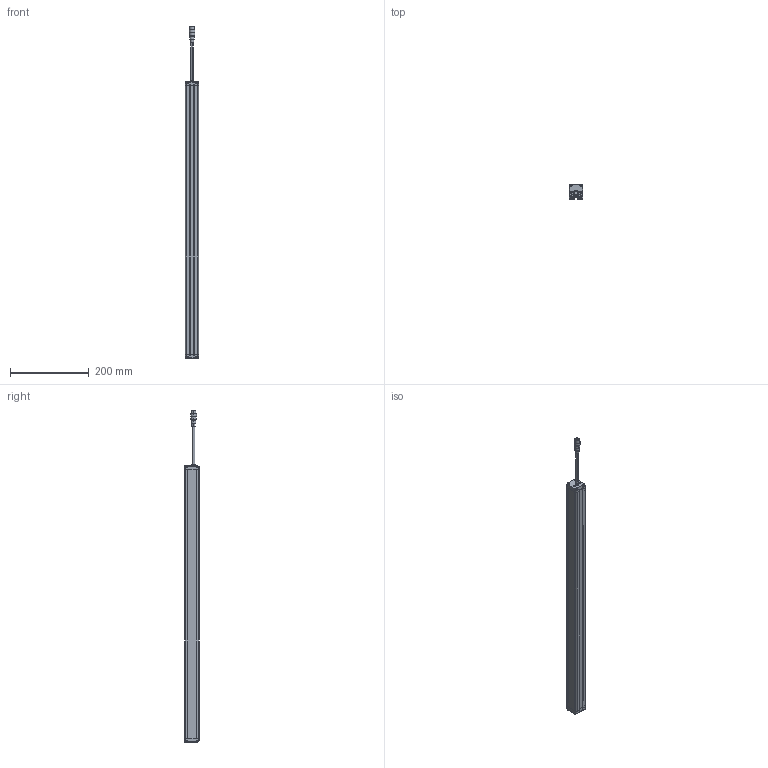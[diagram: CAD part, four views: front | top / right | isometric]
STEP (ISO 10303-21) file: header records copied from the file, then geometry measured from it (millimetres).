
FILE_DESCRIPTION((''),'2;1');
FILE_NAME('PRT0017','2026-03-31T10:54:15',('Administrator'),(''),'CREO PARAMETRIC BY PTC INC, 2016510','CREO PARAMETRIC BY PTC INC, 2016510','');
FILE_SCHEMA(('AUTOMOTIVE_DESIGN { 1 0 10303 214 1 1 1 1 }'));
Length unit declared in the file: millimetre
Products named in the file (1): PRT0017
Bounding box: 33 x 38 x 841.9 mm (x, y, z)
Surface area: 159548.3 mm2 (no closed solid volume)
Topology: 0 solids, 12 shells, 819 faces, 2194 edges, 1394 vertices
Faces by surface type: plane 388, cylinder 235, extrusion 88, sphere 40, torus 36, cone 28, bspline 4
Entity records: 32448 total; most frequent: CARTESIAN_POINT 6125, ORIENTED_EDGE 4284, DIRECTION 4048, EDGE_CURVE 2142, VERTEX_POINT 1394, AXIS2_PLACEMENT_3D 1377, VECTOR 1294, LINE 1206
